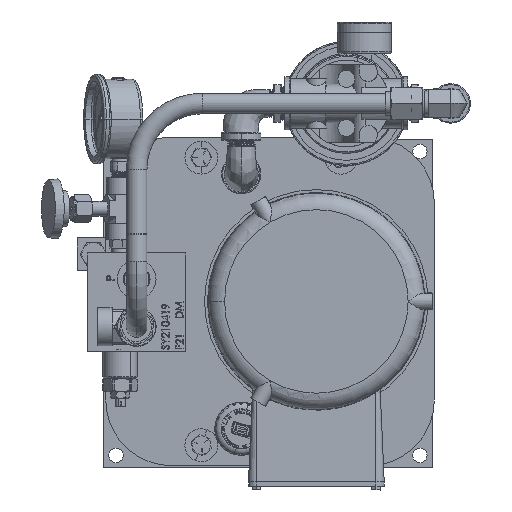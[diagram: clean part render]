
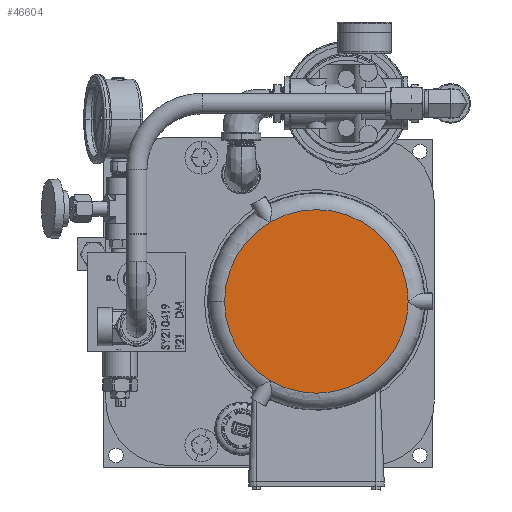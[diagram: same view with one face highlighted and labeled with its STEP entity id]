
A CAD part, left-side view. The second image highlights one B-rep face of the part: STEP entity #46604.
In plain terms, the highlighted planar face has unit normal (-1, 0, 0).
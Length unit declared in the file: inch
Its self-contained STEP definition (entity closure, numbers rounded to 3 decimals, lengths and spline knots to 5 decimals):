
#2269 = CARTESIAN_POINT ( 'NONE',  ( -9.75298, 6.99031, 12.62369 ) ) ;
#7616 = FACE_OUTER_BOUND ( 'NONE', #29685, .T. ) ;
#11430 = CIRCLE ( 'NONE', #56054, 2.79359 ) ;
#14285 = CARTESIAN_POINT ( 'NONE',  ( -9.75298, 8.3871, 15.04302 ) ) ;
#14766 = EDGE_CURVE ( 'NONE', #80059, #37505, #85092, .T. ) ;
#17972 = AXIS2_PLACEMENT_3D ( 'NONE', #22786, #40196, #67043 ) ;
#19233 = DIRECTION ( 'NONE',  ( 1., 0., 0. ) ) ;
#22786 = CARTESIAN_POINT ( 'NONE',  ( -9.75298, 6.99031, 12.62369 ) ) ;
#25554 = EDGE_CURVE ( 'NONE', #105663, #92467, #108070, .T. ) ;
#29685 = EDGE_LOOP ( 'NONE', ( #57194, #68494, #65585, #84044 ) ) ;
#30996 = CARTESIAN_POINT ( 'NONE',  ( -9.75298, 6.99031, 12.62369 ) ) ;
#32681 = DIRECTION ( 'NONE',  ( 1., 0., 0. ) ) ;
#36677 = CARTESIAN_POINT ( 'NONE',  ( -9.75298, 6.99031, 12.62369 ) ) ;
#37505 = VERTEX_POINT ( 'NONE', #14285 ) ;
#37921 = CARTESIAN_POINT ( 'NONE',  ( -9.75298, 6.99031, 12.62369 ) ) ;
#38603 = EDGE_CURVE ( 'NONE', #92467, #80059, #11430, .T. ) ;
#40196 = DIRECTION ( 'NONE',  ( 1., 0., 0. ) ) ;
#46604 = ADVANCED_FACE ( 'NONE', ( #7616 ), #104390, .F. ) ;
#51266 = EDGE_CURVE ( 'NONE', #37505, #105663, #114876, .T. ) ;
#55302 = DIRECTION ( 'NONE',  ( 1., 0., 0. ) ) ;
#56054 = AXIS2_PLACEMENT_3D ( 'NONE', #37921, #62419, #111404 ) ;
#57194 = ORIENTED_EDGE ( 'NONE', *, *, #25554, .F. ) ;
#62419 = DIRECTION ( 'NONE',  ( 1., 0., 0. ) ) ;
#63461 = DIRECTION ( 'NONE',  ( 0., 1., 0. ) ) ;
#65585 = ORIENTED_EDGE ( 'NONE', *, *, #14766, .F. ) ;
#66480 = DIRECTION ( 'NONE',  ( 0., 1., 0. ) ) ;
#67043 = DIRECTION ( 'NONE',  ( 0., 1., 0. ) ) ;
#68494 = ORIENTED_EDGE ( 'NONE', *, *, #51266, .F. ) ;
#70514 = DIRECTION ( 'NONE',  ( 0., 1., 0. ) ) ;
#80059 = VERTEX_POINT ( 'NONE', #80642 ) ;
#80642 = CARTESIAN_POINT ( 'NONE',  ( -9.75298, 9.7839, 12.62369 ) ) ;
#83257 = AXIS2_PLACEMENT_3D ( 'NONE', #2269, #55302, #63461 ) ;
#84044 = ORIENTED_EDGE ( 'NONE', *, *, #38603, .F. ) ;
#84128 = CARTESIAN_POINT ( 'NONE',  ( -9.75298, 4.19671, 12.62369 ) ) ;
#85092 = CIRCLE ( 'NONE', #83257, 2.79359 ) ;
#87479 = AXIS2_PLACEMENT_3D ( 'NONE', #30996, #32681, #66480 ) ;
#92467 = VERTEX_POINT ( 'NONE', #101589 ) ;
#101589 = CARTESIAN_POINT ( 'NONE',  ( -9.75298, 8.3871, 10.20437 ) ) ;
#104390 = PLANE ( 'NONE',  #108642 ) ;
#105663 = VERTEX_POINT ( 'NONE', #84128 ) ;
#108070 = CIRCLE ( 'NONE', #87479, 2.79359 ) ;
#108642 = AXIS2_PLACEMENT_3D ( 'NONE', #36677, #19233, #70514 ) ;
#111404 = DIRECTION ( 'NONE',  ( 0., 1., 0. ) ) ;
#114876 = CIRCLE ( 'NONE', #17972, 2.79359 ) ;
